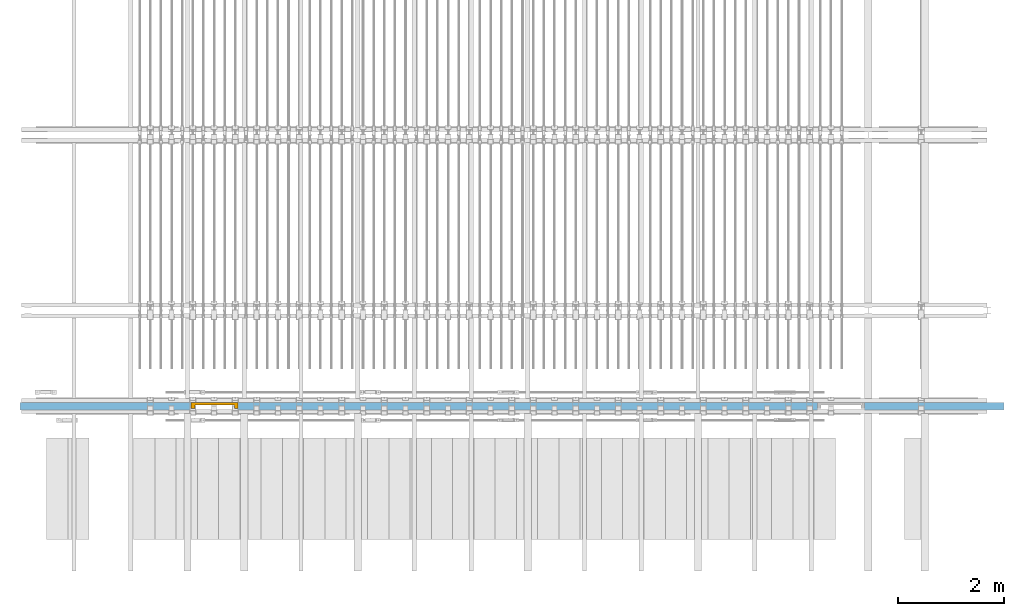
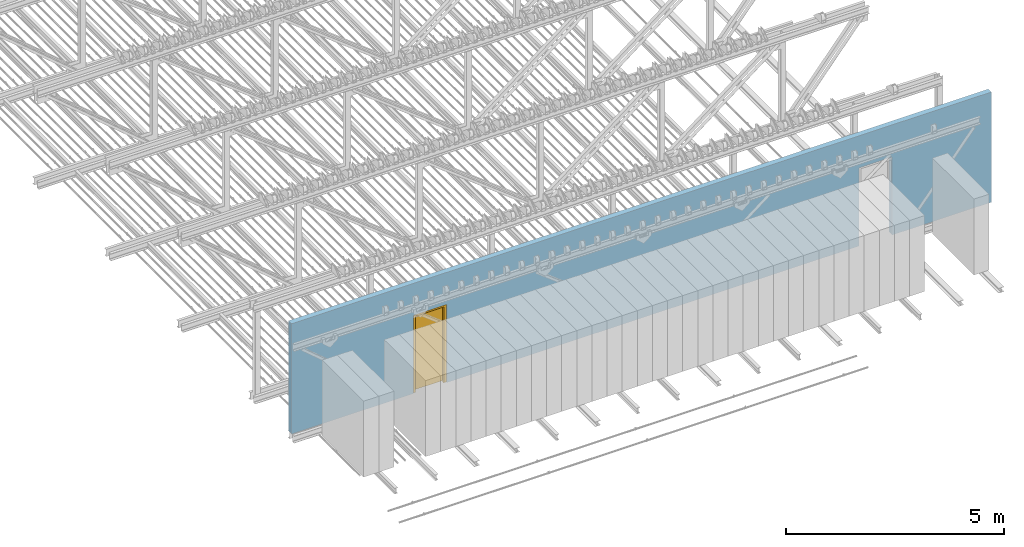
# One storey, part 5 of 8: 1 door, 2 openings, plus 1 element that does not belong to this part.
"""IFC2X3 building model written with IfcOpenShell, lengths in millimetres."""

from ifc_helpers import new_model, entity, si_unit, converted_unit, direction, frame, frame_2d, origin, place, context, subcontext, project, spatial, rectangle, extrude, faceted_brep, source, transform, mapped, material, material_list, layer, layer_set, layer_usage, type_object, type_shapes, element, fill, save


model = new_model("IFC2X3")

# Units and contexts
model_context = context("Model", 3, precision=0.01, world=origin(), true_north=direction((6.123233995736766e-17, 1.0)))
body_context = subcontext(model_context, "Body", "Model", "MODEL_VIEW")
ifc_project = project(units=[si_unit("LENGTHUNIT", "METRE", prefix="MILLI"), si_unit("AREAUNIT", "SQUARE_METRE"), converted_unit("PLANEANGLEUNIT", "DEGREE", entity("IfcPlaneAngleMeasure", 0.017453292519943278), si_unit("PLANEANGLEUNIT", "RADIAN"), dimensions=[0, 0, 0, 0, 0, 0, 0])], contexts=[model_context])

# Site, building, storey
site_placement = place(None, origin())
site = spatial("IfcSite", under=ifc_project, at=site_placement, Name="Default", CompositionType="ELEMENT")
building_placement = place(site_placement, origin())
building = spatial("IfcBuilding", under=site, at=building_placement, CompositionType="ELEMENT")
storey_placement = place(building_placement, frame((0.0, 0.0, 30550.0)))
storey = spatial("IfcBuildingStorey", under=building, at=storey_placement, Name="Rollenzolder", CompositionType="ELEMENT", Elevation=30550.000000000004)

# Wall, openings, door
ifc_material_1 = material(Name="NL_20_wand")
ifc_layer = layer(ifc_material_1, 140.0)
ifc_layer_set = layer_set([ifc_layer], Name="Basic Wall:AL_20_basis_140")
ifc_layer_usage = layer_usage(ifc_layer_set, "AXIS2", "POSITIVE", -70.0)
wall_type = type_object("IfcWallType", Name="Basic Wall:AL_20_basis_140", PredefinedType="STANDARD", material=ifc_layer_set)
wall_placement = place(storey_placement, frame((6586.744931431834, 12831.167906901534, 0.0)))
wall = element("IfcWallStandardCase", 1, at=wall_placement, inside=storey, type_object=wall_type, material=ifc_layer_usage, Name="Basic Wall:AL_20_basis_140", ObjectType="Basic Wall:AL_20_basis_140", context=body_context, shape_type="SweptSolid", body=[
    extrude(rectangle(XDim=18504.99999999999, YDim=140.00000000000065, at=frame_2d((9252.499999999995, -1.0800249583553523e-12), x_axis=(1.0, 0.0))), origin(), (0.0, 0.0, 1.0), 3079.999999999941),
])
opening_1_placement = place(wall_placement, frame((3220.0, -70.0, 0.0)))
opening_1 = element("IfcOpeningElement", 2, at=opening_1_placement, cuts=wall, Name="Binnendeur enkel:780x2115:1", ObjectType="Opening", context=body_context, shape_type="SweptSolid", body=[
    extrude(rectangle(XDim=2186.9999999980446, YDim=883.9999999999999, at=frame_2d((1093.4999999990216, 441.99999999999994), x_axis=(1.0, 0.0))), frame((0.0, 0.0, 0.0), z_axis=(0.0, 1.0, 0.0), x_axis=(0.0, 0.0, 1.0)), (0.0, 0.0, 1.0), 140.0),
])
opening_2_placement = place(wall_placement, frame((14996.0, -70.0, 0.0)))
element("IfcOpeningElement", 3, at=opening_2_placement, cuts=wall, Name="Binnendeur enkel:780x2115:1", ObjectType="Opening", context=body_context, shape_type="SweptSolid", body=[
    extrude(rectangle(XDim=2186.9999999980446, YDim=883.9999999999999, at=frame_2d((1093.4999999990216, 441.99999999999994), x_axis=(1.0, 0.0))), frame((0.0, 0.0, 0.0), z_axis=(0.0, 1.0, 0.0), x_axis=(0.0, 0.0, 1.0)), (0.0, 0.0, 1.0), 140.0),
])
ifc_material_2 = material(Name="Kozijn")
ifc_material_3 = material(Name="Deur")
ifc_material_list = material_list([ifc_material_2, ifc_material_3])
door_style = type_object("IfcDoorStyle", Name="Binnendeur enkel:780x2115", ConstructionType="NOTDEFINED", OperationType="SINGLE_SWING_LEFT", ParameterTakesPrecedence=False, Sizeable=False, material=ifc_material_list)
shared_shape = source(origin(), body_context, "Body", "Brep", [
    faceted_brep([(0.0, 26.0, 0.0), (0.0, 140.0, 0.0), (50.0, 140.0, 0.0), (50.0, 95.0, 0.0), (67.0, 95.0, 0.0), (67.0, 26.0, 0.0), (67.0, 26.0, 2119.999999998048), (817.0, 26.0, 2119.9999999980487), (817.0, 26.0, 0.0), (884.0, 26.0, 0.0), (884.0, 26.0, 2186.9999999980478), (0.0, 26.0, 2186.9999999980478), (67.0, 95.0, 2119.999999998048), (50.0, 95.0, 2136.999999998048), (834.0, 95.0, 2136.999999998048), (834.0, 95.0, 0.0), (817.0, 95.0, 0.0), (817.0, 95.0, 2119.999999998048), (50.0, 140.0, 2136.999999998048), (0.0, 140.0, 2186.9999999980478), (884.0, 140.0, 2186.9999999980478), (884.0, 140.0, 0.0), (834.0, 140.0, 0.0), (834.0, 140.0, 2136.999999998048)], [[[0, 1, 2, 3, 4, 5]], [[5, 6, 7, 8, 9, 10, 11, 0]], [[4, 12, 6, 5]], [[3, 13, 14, 15, 16, 17, 12, 4]], [[2, 18, 13, 3]], [[1, 19, 20, 21, 22, 23, 18, 2]], [[0, 11, 19, 1]], [[10, 9, 21, 20]], [[9, 8, 16, 15, 22, 21]], [[17, 16, 8, 7]], [[23, 22, 15, 14]], [[12, 17, 7, 6]], [[18, 23, 14, 13]], [[11, 10, 20, 19]]]),
    faceted_brep([(832.0, 95.0, 2135.0), (52.0, 95.0, 2135.0), (52.0, 95.0, 20.0), (832.0, 95.0, 20.0), (832.0, 135.0, 20.0), (832.0, 135.0, 2135.0), (52.0, 135.0, 20.0), (52.0, 135.0, 2135.0)], [[[0, 1, 2, 3]], [[3, 4, 5, 0]], [[2, 6, 4, 3]], [[1, 7, 6, 2]], [[5, 4, 6, 7]], [[0, 5, 7, 1]]]),
])
type_shapes(door_style, [shared_shape])
door_placement = place(opening_1_placement, origin())
door = element("IfcDoor", 4, at=door_placement, inside=storey, type_object=door_style, material=ifc_material_list, Name="Binnendeur enkel:780x2115", ObjectType="Binnendeur enkel:780x2115", OverallHeight=2186.999999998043, OverallWidth=884.0000000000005, context=body_context, shape_type="MappedRepresentation", body=[
    mapped(shared_shape, transform((0.0, 0.0, 0.0), scale=1.0)),
])
fill(opening_1, door)

save(model, "model.ifc")
